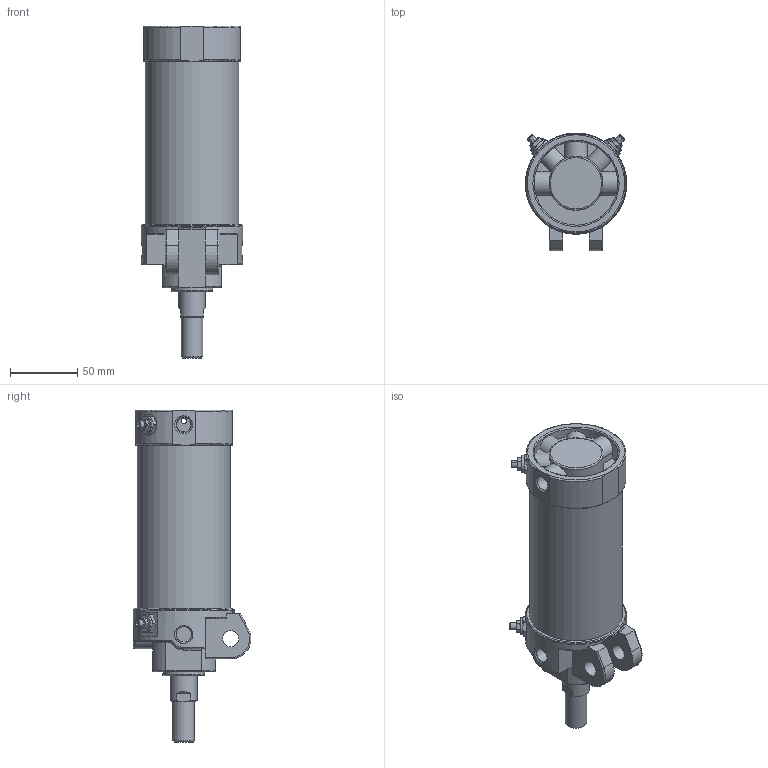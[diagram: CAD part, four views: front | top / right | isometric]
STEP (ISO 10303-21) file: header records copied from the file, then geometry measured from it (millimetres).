
FILE_DESCRIPTION((''),'2;1');
FILE_NAME('I:\3D電子目錄\氣缸\DCK\DCK\DCK-1B-63x75.stp','2008-02-26T15:18:15',('Administrator'),(''),'Autodesk Inventor 11','Autodesk Inventor 11','');
FILE_SCHEMA(('AUTOMOTIVE_DESIGN { 1 0 10303 214 1 1 1 1 }'));
Length unit declared in the file: millimetre
Products named in the file (6): DCK-1B-63; 緩衝針; 緩衝針-1; 緩衝針-201; 緩衝針-3
Assembly tree (8 placements, depth 3):
  DCK-1B-63
    DCK-1B-63
    緩衝針  x4
      緩衝針-1
      緩衝針-201
      緩衝針-3
Bounding box: 75 x 87.29 x 246 mm (x, y, z)
Volume: 330779.4 mm3; surface area: 125419.9 mm2
Topology: 16 solids, 16 shells, 588 faces, 1291 edges, 803 vertices
Faces by surface type: plane 217, cylinder 167, cone 131, torus 42, bspline 31
Full cylindrical faces by diameter (mm): 2 x1, 3 x2, 3.8 x2, 4 x6, 4.6 x4, 5 x8, 5.1 x4, 5.2 x12, 5.5 x4, 7 x1, 7.25 x1, 7.9 x4, 8 x2, 11.3 x3, 12 x2, 12.8 x4, 16 x2, 20 x1, 21 x1, 22 x2, 23 x1, 24.7 x1, 26 x1, 27 x1, 28 x1, 29 x1, 31 x1, 33 x1, 62 x1, 62.7 x1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
Entity records: 12345 total; most frequent: CARTESIAN_POINT 5236, DIRECTION 1435, ORIENTED_EDGE 1302, EDGE_CURVE 651, AXIS2_PLACEMENT_3D 626, EDGE_LOOP 507, VERTEX_POINT 468, FACE_OUTER_BOUND 339
